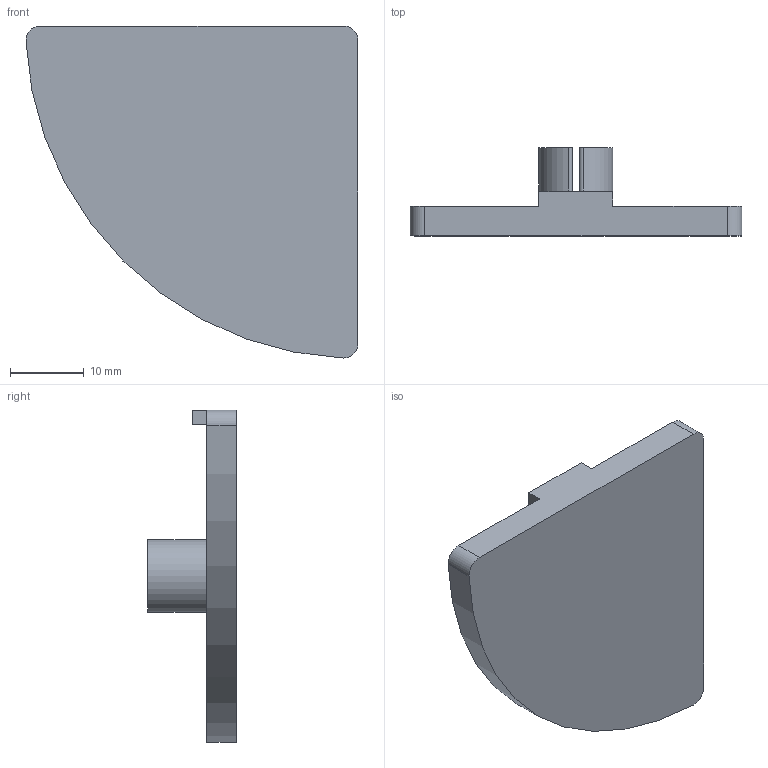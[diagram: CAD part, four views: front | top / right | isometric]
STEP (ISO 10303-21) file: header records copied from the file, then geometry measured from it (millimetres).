
FILE_DESCRIPTION (( 'STEP AP214' ), '1' );
FILE_NAME ('4015.STEP', '2017-08-10T06:19:03', ( '' ), ( '' ), 'SwSTEP 2.0', 'SolidWorks 2014', '' );
FILE_SCHEMA (( 'AUTOMOTIVE_DESIGN' ));
Length unit declared in the file: millimetre
Products named in the file (2): 4015
Bounding box: 44.95 x 12 x 44.95 mm (x, y, z)
Volume: 4163.2 mm3; surface area: 4689.4 mm2
Topology: 1 solids, 1 shells, 40 faces, 108 edges, 72 vertices
Faces by surface type: cylinder 24, plane 16
Entity records: 1329 total; most frequent: DIRECTION 240, CARTESIAN_POINT 222, ORIENTED_EDGE 216, EDGE_CURVE 108, AXIS2_PLACEMENT_3D 90, VERTEX_POINT 72, VECTOR 60, LINE 60
